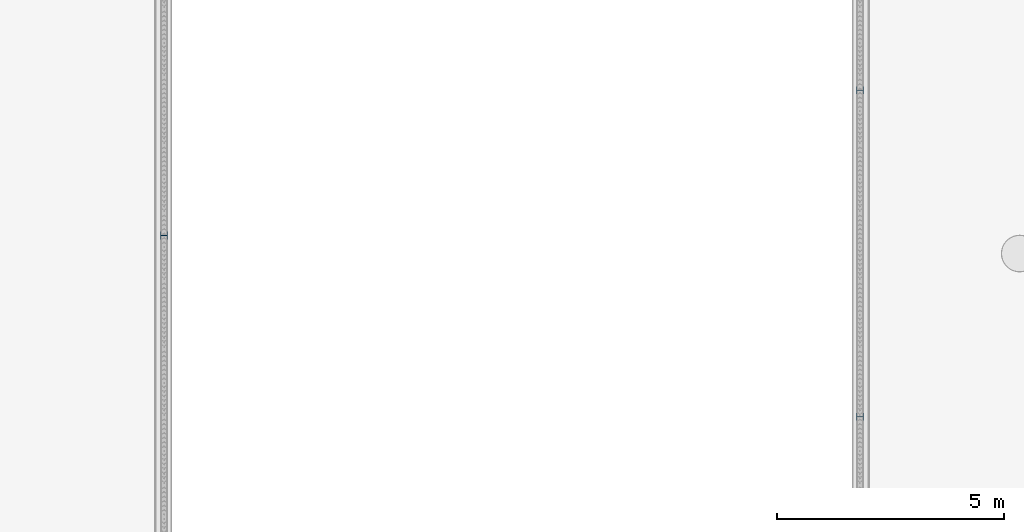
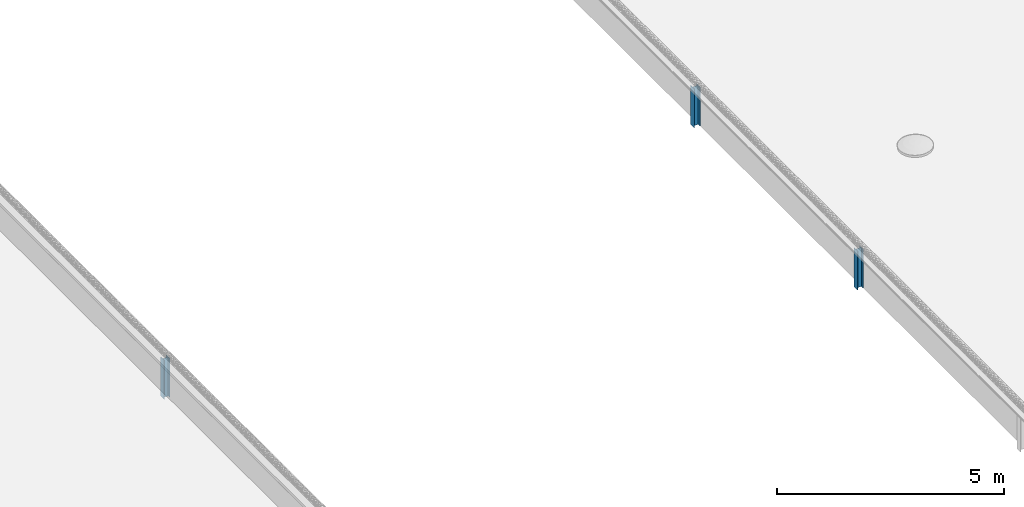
# One storey, part 10 of 81: 3 columns.
"""IFC2X3 building model written with IfcOpenShell, lengths in millimetres."""

from ifc_helpers import new_model, entity, si_unit, converted_unit, derived_unit, money_unit, direction, frame, origin_with_axes, place, context, subcontext, project, spatial, faceted_brep, material, type_object, element, save


model = new_model("IFC2X3")

# Units and contexts
model_context = context("Model", 3, precision=0.01, world=origin_with_axes(), true_north=direction((0.0, 1.0)))
body_context = subcontext(model_context, "Body", "Model", "MODEL_VIEW")
ifc_project = project(units=[si_unit("LENGTHUNIT", "METRE", prefix="MILLI"), si_unit("AREAUNIT", "SQUARE_METRE"), si_unit("VOLUMEUNIT", "CUBIC_METRE"), converted_unit("PLANEANGLEUNIT", "DEGREE", entity("IfcPlaneAngleMeasure", 0.0174532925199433), si_unit("PLANEANGLEUNIT", "RADIAN"), dimensions=[0, 0, 0, 0, 0, 0, 0]), money_unit("EUR"), converted_unit("TIMEUNIT", "Year", entity("IfcTimeMeasure", 31557600.0), si_unit("TIMEUNIT", "SECOND"), dimensions=[0, 0, 1, 0, 0, 0, 0]), si_unit("MASSUNIT", "GRAM", prefix="KILO"), si_unit("THERMODYNAMICTEMPERATUREUNIT", "DEGREE_CELSIUS"), si_unit("LUMINOUSINTENSITYUNIT", "LUMEN"), si_unit("ENERGYUNIT", "JOULE", prefix="MEGA"), derived_unit("THERMALCONDUCTANCEUNIT", [(si_unit("POWERUNIT", "WATT"), 1), (si_unit("LENGTHUNIT", "METRE"), -1), (si_unit("THERMODYNAMICTEMPERATUREUNIT", "KELVIN"), -1)]), derived_unit("SPECIFICHEATCAPACITYUNIT", [(si_unit("ENERGYUNIT", "JOULE"), 1), (si_unit("MASSUNIT", "GRAM", prefix="KILO"), -1), (si_unit("THERMODYNAMICTEMPERATUREUNIT", "KELVIN"), -1)]), derived_unit("MASSDENSITYUNIT", [(si_unit("MASSUNIT", "GRAM", prefix="KILO"), 1), (si_unit("VOLUMEUNIT", "CUBIC_METRE"), -1)])], contexts=[model_context])

# Site, building, storey
site_placement = place(None, origin_with_axes())
site = spatial("IfcSite", under=ifc_project, at=site_placement, Name="Site", CompositionType="ELEMENT")
building_placement = place(site_placement, origin_with_axes())
building = spatial("IfcBuilding", under=site, at=building_placement, Name="Naam gebouw", CompositionType="ELEMENT")
storey_placement = place(building_placement, frame((0.0, 0.0, 15320.0), z_axis=(0.0, 0.0, 1.0), x_axis=(1.0, 0.0, 0.0)))
storey = spatial("IfcBuildingStorey", under=building, at=storey_placement, Name="01 dak", CompositionType="ELEMENT", Elevation=15320.0)

# Columns
ifc_material = material(Name="Metaal - Staal C")
column_type = type_object("IfcColumnType", Name="HEA160 160 x 152", PredefinedType="COLUMN")
for number, where, z_axis, x_axis, name in (
    (1, (68424.0, 80400.0, -400.0393597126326), (0.0, 0.0, 1.0), (0.0, -1.0, 0.0), "HEA160"),
    (2, (83775.99999999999, 76400.0, -400.0393597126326), (0.0, 0.0, 1.0), (0.0, 1.0, 0.0), "HEA160"),
    (3, (83775.99999999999, 83600.00000000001, -400.0393597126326), (0.0, 0.0, 1.0), (0.0, 1.0, 0.0), "HEA160"),
):
    element("IfcColumn", number, at=place(storey_placement, frame(where, z_axis=z_axis, x_axis=x_axis)), inside=storey, type_object=column_type, material=ifc_material, Name=name, ObjectType="COLUMN", context=body_context, shape_type="Brep", body=[
        faceted_brep([(-79.9999999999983, 75.9999999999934, 1055.0), (-79.9999999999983, 75.9999999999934, 0.0), (-79.9999999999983, 66.99999999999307, 0.0), (-79.9999999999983, 66.99999999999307, 1055.0), (79.9999999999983, 75.9999999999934, 1055.0), (79.9999999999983, 75.9999999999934, 0.0), (79.9999999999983, 66.99999999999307, 0.0), (3.000000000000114, 66.99999999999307, 0.0), (3.000000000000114, -66.99999999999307, 0.0), (79.9999999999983, -66.99999999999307, 0.0), (79.9999999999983, -75.9999999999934, 0.0), (-79.9999999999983, -75.9999999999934, 0.0), (-79.9999999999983, -66.99999999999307, 0.0), (-3.000000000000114, -66.99999999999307, 0.0), (-3.000000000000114, 66.99999999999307, 0.0), (-3.000000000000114, 66.99999999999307, 1055.0), (-3.000000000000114, -66.99999999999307, 1055.0), (-79.9999999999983, -66.99999999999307, 1055.0), (-79.9999999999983, -75.9999999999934, 1055.0), (79.9999999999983, -75.9999999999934, 1055.0), (79.9999999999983, -66.99999999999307, 1055.0), (3.000000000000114, -66.99999999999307, 1055.0), (3.000000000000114, 66.99999999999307, 1055.0), (79.9999999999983, 66.99999999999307, 1055.0)], [[[0, 1, 2, 3]], [[4, 5, 1, 0]], [[2, 1, 5, 6, 7, 8, 9, 10, 11, 12, 13, 14]], [[3, 2, 14, 15]], [[4, 0, 3, 15, 16, 17, 18, 19, 20, 21, 22, 23]], [[23, 6, 5, 4]], [[22, 7, 6, 23]], [[21, 8, 7, 22]], [[20, 9, 8, 21]], [[19, 10, 9, 20]], [[18, 11, 10, 19]], [[17, 12, 11, 18]], [[16, 13, 12, 17]], [[15, 14, 13, 16]]]),
    ])

save(model, "model.ifc")
